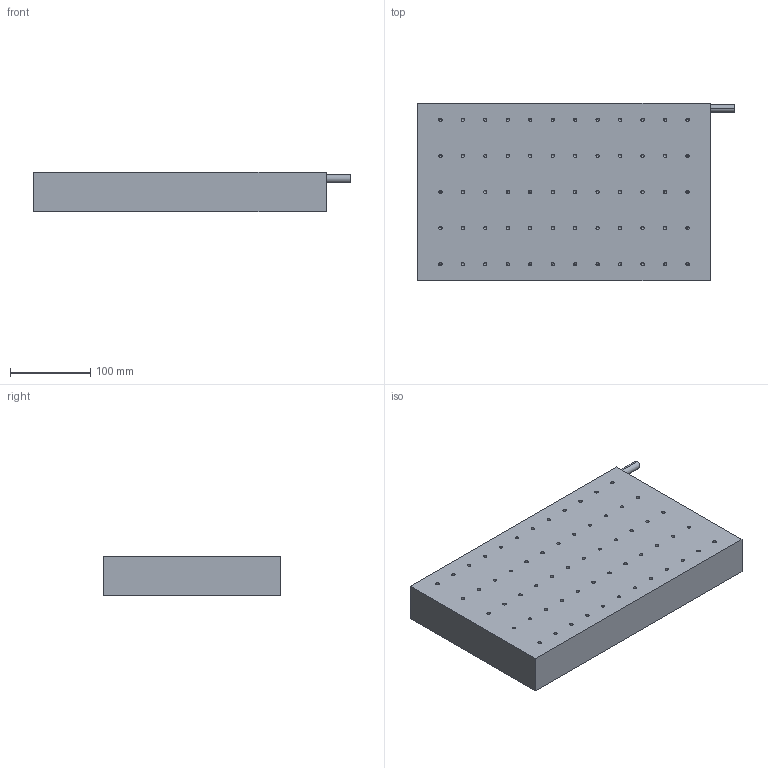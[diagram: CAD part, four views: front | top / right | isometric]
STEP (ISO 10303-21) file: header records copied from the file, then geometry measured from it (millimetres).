
FILE_DESCRIPTION (( 'STEP AP214' ), '1' );
FILE_NAME ('WKM200A雄赽.STEP', '2025-09-05T12:13:18', ( '' ), ( '' ), 'SwSTEP 2.0', 'SolidWorks 2016', '' );
FILE_SCHEMA (( 'AUTOMOTIVE_DESIGN' ));
Length unit declared in the file: millimetre
Products named in the file (1): WKM200A雄赽
Bounding box: 394 x 221 x 49.3 mm (x, y, z)
Volume: 3963094.1 mm3; surface area: 223957.1 mm2
Topology: 1 solids, 1 shells, 249 faces, 618 edges, 312 vertices
Faces by surface type: cylinder 122, cone 120, plane 7
Entity records: 7830 total; most frequent: DIRECTION 1242, CARTESIAN_POINT 1060, ORIENTED_EDGE 996, EDGE_CURVE 498, AXIS2_PLACEMENT_3D 494, VERTEX_POINT 312, EDGE_LOOP 310, VECTOR 254
